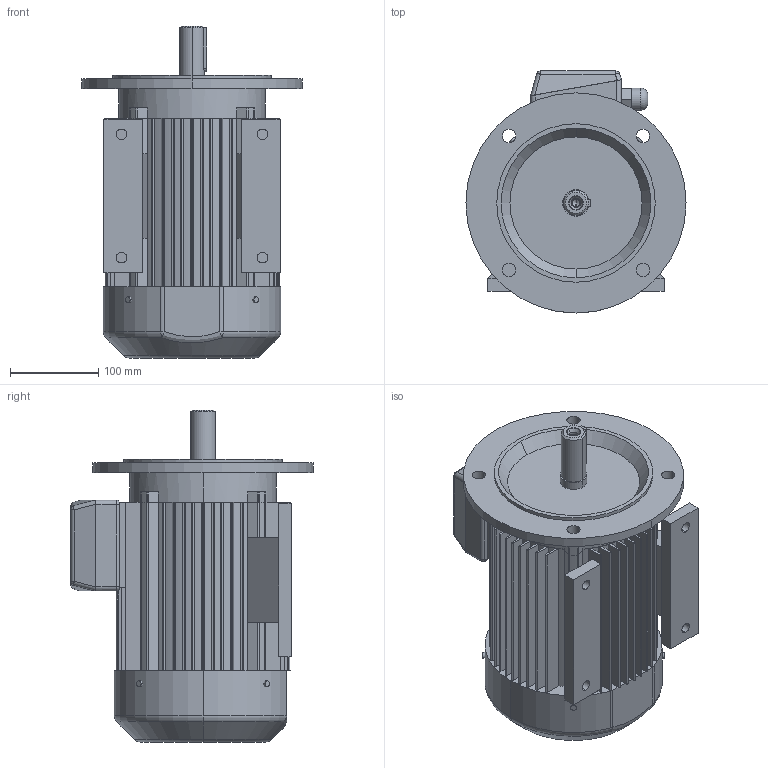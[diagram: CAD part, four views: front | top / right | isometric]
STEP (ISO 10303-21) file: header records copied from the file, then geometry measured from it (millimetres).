
FILE_DESCRIPTION (( 'STEP AP203' ), '1' );
FILE_NAME ('2SIEL100L2,6.STEP', '2012-10-26T12:31:05', ( 'INDUKTA' ), ( 'CANTONI MOTOR' ), 'SwSTEP 2.0', 'SolidWorks 2003064', '' );
FILE_SCHEMA (( 'CONFIG_CONTROL_DESIGN' ));
Length unit declared in the file: millimetre
Products named in the file (1): 2SIEL100L2,6
Bounding box: 250 x 275 x 377 mm (x, y, z)
Volume: 9179361.9 mm3; surface area: 711117.1 mm2
Topology: 13 solids, 13 shells, 415 faces, 1097 edges, 705 vertices
Faces by surface type: plane 193, cylinder 190, cone 14, torus 11, sphere 6, bspline 1
Entity records: 13410 total; most frequent: CARTESIAN_POINT 2784, DIRECTION 2300, ORIENTED_EDGE 2178, EDGE_CURVE 1089, AXIS2_PLACEMENT_3D 823, VERTEX_POINT 705, LINE 654, VECTOR 654
